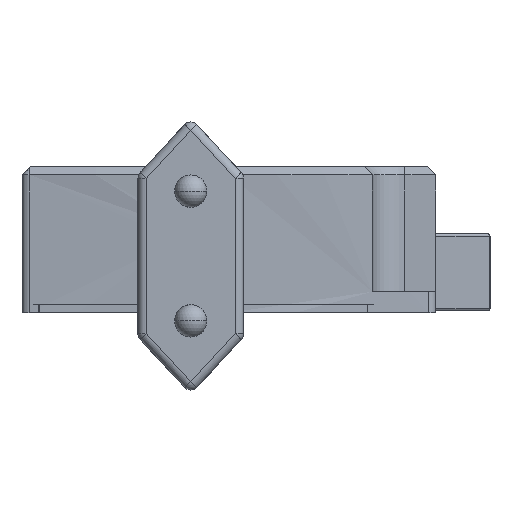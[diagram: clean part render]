
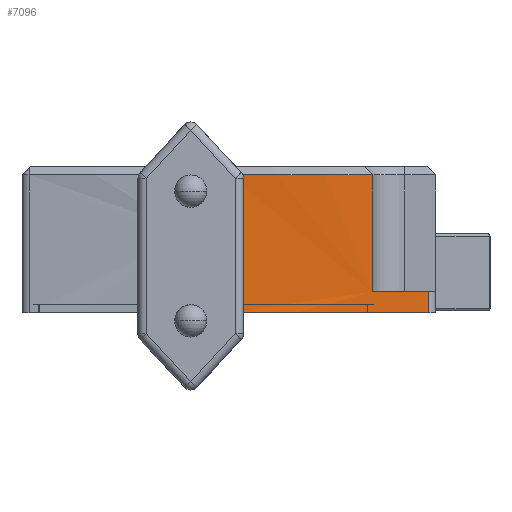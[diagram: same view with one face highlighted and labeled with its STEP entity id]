
A CAD part, left-side view. The second image highlights one B-rep face of the part: STEP entity #7096.
In plain terms, the highlighted cylindrical face has radius 200 mm (diameter 400 mm), a partial arc.
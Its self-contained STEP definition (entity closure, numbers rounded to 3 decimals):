
#119 = EDGE_CURVE ( 'NONE', #12341, #13844, #15230, .T. ) ;
#215 = ORIENTED_EDGE ( 'NONE', *, *, #1792, .T. ) ;
#297 = CYLINDRICAL_SURFACE ( 'NONE', #1016, 200. ) ;
#457 = FACE_OUTER_BOUND ( 'NONE', #6347, .T. ) ;
#496 = CARTESIAN_POINT ( 'NONE',  ( -78.215, -17.7, 2.6 ) ) ;
#983 = ORIENTED_EDGE ( 'NONE', *, *, #2876, .T. ) ;
#1016 = AXIS2_PLACEMENT_3D ( 'NONE', #15740, #4125, #5519 ) ;
#1152 = DIRECTION ( 'NONE',  ( -1., 0., 0. ) ) ;
#1317 = CARTESIAN_POINT ( 'NONE',  ( 121., 0., 0. ) ) ;
#1718 = CARTESIAN_POINT ( 'NONE',  ( -78.215, -17.7, 17. ) ) ;
#1792 = EDGE_CURVE ( 'NONE', #12146, #12341, #4673, .T. ) ;
#1898 = DIRECTION ( 'NONE',  ( 0., 0., -1. ) ) ;
#1987 = AXIS2_PLACEMENT_3D ( 'NONE', #1317, #9863, #1152 ) ;
#2455 = DIRECTION ( 'NONE',  ( -1., 0., 0. ) ) ;
#2876 = EDGE_CURVE ( 'NONE', #12819, #12146, #13666, .T. ) ;
#3436 = CARTESIAN_POINT ( 'NONE',  ( -79., 0., 18. ) ) ;
#3881 = EDGE_CURVE ( 'NONE', #14371, #12819, #7332, .T. ) ;
#4125 = DIRECTION ( 'NONE',  ( 0., 0., -1. ) ) ;
#4673 = LINE ( 'NONE', #3436, #12589 ) ;
#4931 = CARTESIAN_POINT ( 'NONE',  ( 121., 0., 2.6 ) ) ;
#5070 = CARTESIAN_POINT ( 'NONE',  ( -77.478, -24.623, 2.6 ) ) ;
#5519 = DIRECTION ( 'NONE',  ( -1., 0., 0. ) ) ;
#6006 = CARTESIAN_POINT ( 'NONE',  ( 121., 0., 17. ) ) ;
#6347 = EDGE_LOOP ( 'NONE', ( #983, #215, #15426, #11715, #9026, #15788 ) ) ;
#7096 = ADVANCED_FACE ( 'NONE', ( #457 ), #297, .T. ) ;
#7118 = CIRCLE ( 'NONE', #16404, 200. ) ;
#7332 = LINE ( 'NONE', #8579, #12104 ) ;
#7384 = EDGE_CURVE ( 'NONE', #15743, #14371, #7118, .T. ) ;
#8281 = LINE ( 'NONE', #10934, #10423 ) ;
#8579 = CARTESIAN_POINT ( 'NONE',  ( -78.215, -17.7, 18. ) ) ;
#9026 = ORIENTED_EDGE ( 'NONE', *, *, #7384, .T. ) ;
#9428 = CARTESIAN_POINT ( 'NONE',  ( -77.478, -24.623, 0. ) ) ;
#9863 = DIRECTION ( 'NONE',  ( 0., 0., 1. ) ) ;
#10040 = CARTESIAN_POINT ( 'NONE',  ( -79., 0., 17. ) ) ;
#10085 = DIRECTION ( 'NONE',  ( 0., 0., -1. ) ) ;
#10423 = VECTOR ( 'NONE', #1898, 1000. ) ;
#10853 = CARTESIAN_POINT ( 'NONE',  ( -79., 0., 0. ) ) ;
#10934 = CARTESIAN_POINT ( 'NONE',  ( -77.478, -24.623, 18. ) ) ;
#11715 = ORIENTED_EDGE ( 'NONE', *, *, #15233, .F. ) ;
#12104 = VECTOR ( 'NONE', #13564, 1000. ) ;
#12146 = VERTEX_POINT ( 'NONE', #10040 ) ;
#12341 = VERTEX_POINT ( 'NONE', #10853 ) ;
#12495 = DIRECTION ( 'NONE',  ( 0., 0., -1. ) ) ;
#12589 = VECTOR ( 'NONE', #16223, 1000. ) ;
#12819 = VERTEX_POINT ( 'NONE', #1718 ) ;
#13564 = DIRECTION ( 'NONE',  ( 0., 0., 1. ) ) ;
#13652 = DIRECTION ( 'NONE',  ( -1., 0., 0. ) ) ;
#13666 = CIRCLE ( 'NONE', #15790, 200. ) ;
#13844 = VERTEX_POINT ( 'NONE', #9428 ) ;
#14371 = VERTEX_POINT ( 'NONE', #496 ) ;
#15230 = CIRCLE ( 'NONE', #1987, 200. ) ;
#15233 = EDGE_CURVE ( 'NONE', #15743, #13844, #8281, .T. ) ;
#15426 = ORIENTED_EDGE ( 'NONE', *, *, #119, .T. ) ;
#15740 = CARTESIAN_POINT ( 'NONE',  ( 121., 0., 18. ) ) ;
#15743 = VERTEX_POINT ( 'NONE', #5070 ) ;
#15788 = ORIENTED_EDGE ( 'NONE', *, *, #3881, .T. ) ;
#15790 = AXIS2_PLACEMENT_3D ( 'NONE', #6006, #12495, #13652 ) ;
#16223 = DIRECTION ( 'NONE',  ( 0., 0., -1. ) ) ;
#16404 = AXIS2_PLACEMENT_3D ( 'NONE', #4931, #10085, #2455 ) ;
